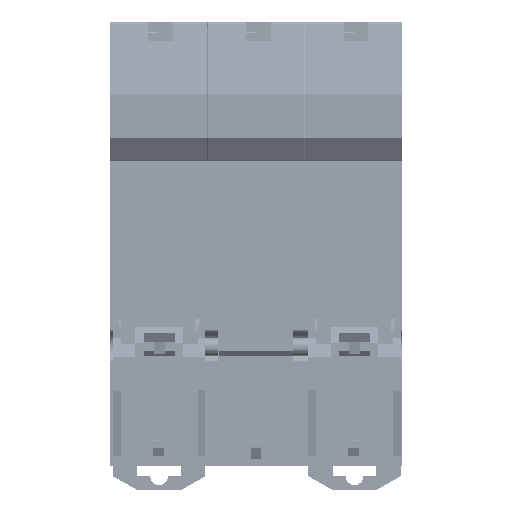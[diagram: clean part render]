
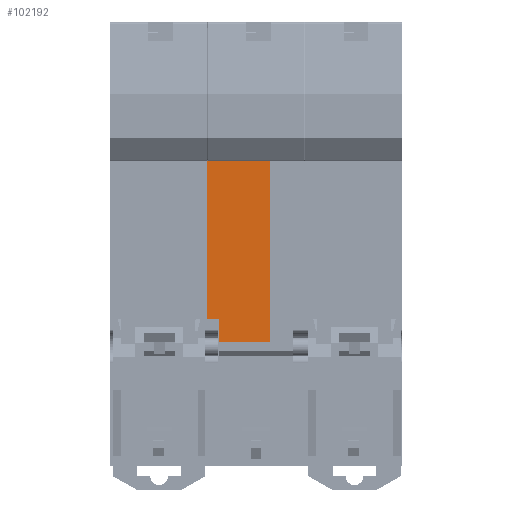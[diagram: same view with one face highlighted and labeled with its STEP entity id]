
A CAD part, left-side view. The second image highlights one B-rep face of the part: STEP entity #102192.
In plain terms, the highlighted planar face has unit normal (-1, 0, 0).
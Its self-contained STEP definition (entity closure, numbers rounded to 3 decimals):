
#7058 = EDGE_CURVE ( 'NONE', #99486, #643477, #537078, .T. ) ;
#7932 = ORIENTED_EDGE ( 'NONE', *, *, #536183, .T. ) ;
#9458 = PLANE ( 'NONE',  #588347 ) ;
#13741 = LINE ( 'NONE', #361818, #312218 ) ;
#69897 = CARTESIAN_POINT ( 'NONE',  ( -2.5, 24.1, 58.1 ) ) ;
#70443 = EDGE_CURVE ( 'NONE', #370429, #208613, #540839, .T. ) ;
#85535 = VECTOR ( 'NONE', #184449, 1000. ) ;
#91391 = CARTESIAN_POINT ( 'NONE',  ( -2.5, 56.7, 58.1 ) ) ;
#99486 = VERTEX_POINT ( 'NONE', #192246 ) ;
#102192 = ADVANCED_FACE ( 'NONE', ( #305488 ), #9458, .F. ) ;
#105822 = VECTOR ( 'NONE', #268361, 1000. ) ;
#118812 = LINE ( 'NONE', #69897, #105822 ) ;
#137976 = VECTOR ( 'NONE', #538375, 1000. ) ;
#175876 = EDGE_CURVE ( 'NONE', #209767, #635206, #450445, .T. ) ;
#184449 = DIRECTION ( 'NONE',  ( 0., 0., -1. ) ) ;
#192246 = CARTESIAN_POINT ( 'NONE',  ( -2.5, 24.1, 58.1 ) ) ;
#198313 = DIRECTION ( 'NONE',  ( 1., 0., 0. ) ) ;
#208613 = VERTEX_POINT ( 'NONE', #259918 ) ;
#209767 = VERTEX_POINT ( 'NONE', #493639 ) ;
#219820 = CARTESIAN_POINT ( 'NONE',  ( -2.5, 33.45, 26.9 ) ) ;
#243940 = DIRECTION ( 'NONE',  ( 0., 0., 1. ) ) ;
#259918 = CARTESIAN_POINT ( 'NONE',  ( -2.5, 24.1, 22.6 ) ) ;
#265707 = ORIENTED_EDGE ( 'NONE', *, *, #392377, .T. ) ;
#268361 = DIRECTION ( 'NONE',  ( 0., 0., 1. ) ) ;
#283264 = EDGE_CURVE ( 'NONE', #635206, #370429, #578150, .T. ) ;
#288659 = EDGE_LOOP ( 'NONE', ( #296858, #399363, #369300, #7932, #468783, #265707 ) ) ;
#289885 = DIRECTION ( 'NONE',  ( 0., 1., 0. ) ) ;
#293626 = CARTESIAN_POINT ( 'NONE',  ( -2.5, 35.6, 22.6 ) ) ;
#296858 = ORIENTED_EDGE ( 'NONE', *, *, #175876, .T. ) ;
#299798 = CARTESIAN_POINT ( 'NONE',  ( -2.5, 33.45, 22.6 ) ) ;
#305488 = FACE_OUTER_BOUND ( 'NONE', #288659, .T. ) ;
#312218 = VECTOR ( 'NONE', #417053, 1000. ) ;
#315117 = VECTOR ( 'NONE', #289885, 1000. ) ;
#328802 = VECTOR ( 'NONE', #596133, 1000. ) ;
#361818 = CARTESIAN_POINT ( 'NONE',  ( -2.5, 35.6, 58.1 ) ) ;
#369300 = ORIENTED_EDGE ( 'NONE', *, *, #70443, .T. ) ;
#370429 = VERTEX_POINT ( 'NONE', #299798 ) ;
#392377 = EDGE_CURVE ( 'NONE', #643477, #209767, #13741, .T. ) ;
#399363 = ORIENTED_EDGE ( 'NONE', *, *, #283264, .T. ) ;
#417053 = DIRECTION ( 'NONE',  ( 0., 0., -1. ) ) ;
#421555 = CARTESIAN_POINT ( 'NONE',  ( -2.5, 35.6, 58.1 ) ) ;
#440839 = CARTESIAN_POINT ( 'NONE',  ( -2.5, 35.6, 26.9 ) ) ;
#450445 = LINE ( 'NONE', #440839, #137976 ) ;
#468783 = ORIENTED_EDGE ( 'NONE', *, *, #7058, .T. ) ;
#493639 = CARTESIAN_POINT ( 'NONE',  ( -2.5, 35.6, 26.9 ) ) ;
#536183 = EDGE_CURVE ( 'NONE', #208613, #99486, #118812, .T. ) ;
#537078 = LINE ( 'NONE', #91391, #315117 ) ;
#538375 = DIRECTION ( 'NONE',  ( 0., -1., 0. ) ) ;
#540839 = LINE ( 'NONE', #293626, #328802 ) ;
#549590 = CARTESIAN_POINT ( 'NONE',  ( -2.5, 35.6, 58.1 ) ) ;
#578150 = LINE ( 'NONE', #581341, #85535 ) ;
#581341 = CARTESIAN_POINT ( 'NONE',  ( -2.5, 33.45, 58.1 ) ) ;
#588347 = AXIS2_PLACEMENT_3D ( 'NONE', #549590, #198313, #243940 ) ;
#596133 = DIRECTION ( 'NONE',  ( 0., -1., 0. ) ) ;
#635206 = VERTEX_POINT ( 'NONE', #219820 ) ;
#643477 = VERTEX_POINT ( 'NONE', #421555 ) ;
